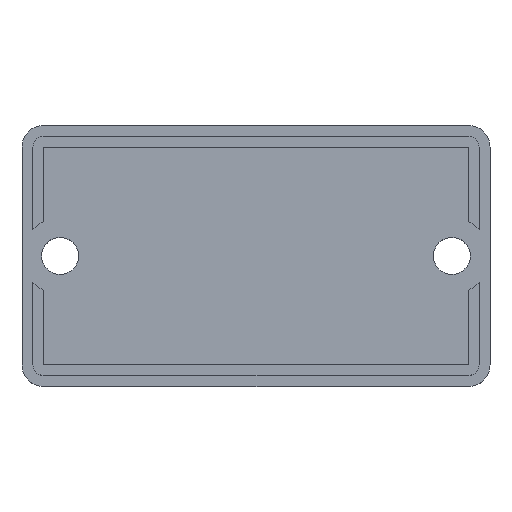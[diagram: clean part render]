
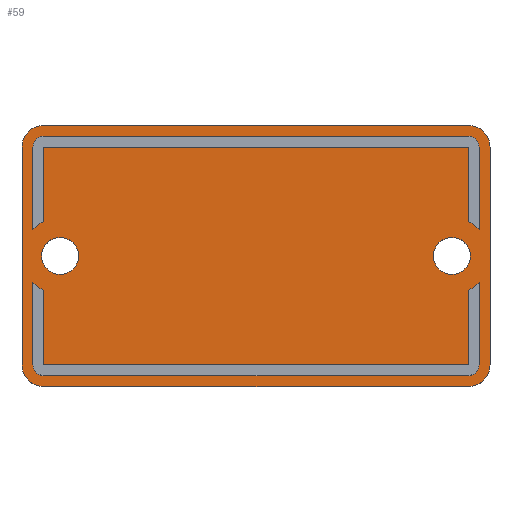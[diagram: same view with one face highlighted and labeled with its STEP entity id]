
A CAD part, top view. The second image highlights one B-rep face of the part: STEP entity #59.
In plain terms, the highlighted planar face has unit normal (0, 0, 1).
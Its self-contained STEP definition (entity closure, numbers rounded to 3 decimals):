
#21 = EDGE_CURVE('',#22,#24,#26,.T.);
#22 = VERTEX_POINT('',#23);
#23 = CARTESIAN_POINT('',(-21.5,-10.,4.));
#24 = VERTEX_POINT('',#25);
#25 = CARTESIAN_POINT('',(-19.5,-12.,4.));
#26 = CIRCLE('',#27,2.);
#27 = AXIS2_PLACEMENT_3D('',#28,#29,#30);
#28 = CARTESIAN_POINT('',(-19.5,-10.,4.));
#29 = DIRECTION('',(0.,0.,1.));
#30 = DIRECTION('',(1.,0.,-0.));
#59 = ADVANCED_FACE('',(#60,#120,#206,#217,#228),#314,.T.);
#60 = FACE_BOUND('',#61,.T.);
#61 = EDGE_LOOP('',(#62,#63,#71,#80,#88,#97,#105,#114));
#62 = ORIENTED_EDGE('',*,*,#21,.T.);
#63 = ORIENTED_EDGE('',*,*,#64,.T.);
#64 = EDGE_CURVE('',#24,#65,#67,.T.);
#65 = VERTEX_POINT('',#66);
#66 = CARTESIAN_POINT('',(19.5,-12.,4.));
#67 = LINE('',#68,#69);
#68 = CARTESIAN_POINT('',(-19.5,-12.,4.));
#69 = VECTOR('',#70,1.);
#70 = DIRECTION('',(1.,0.,-0.));
#71 = ORIENTED_EDGE('',*,*,#72,.T.);
#72 = EDGE_CURVE('',#65,#73,#75,.T.);
#73 = VERTEX_POINT('',#74);
#74 = CARTESIAN_POINT('',(21.5,-10.,4.));
#75 = CIRCLE('',#76,2.);
#76 = AXIS2_PLACEMENT_3D('',#77,#78,#79);
#77 = CARTESIAN_POINT('',(19.5,-10.,4.));
#78 = DIRECTION('',(0.,0.,1.));
#79 = DIRECTION('',(1.,0.,-0.));
#80 = ORIENTED_EDGE('',*,*,#81,.T.);
#81 = EDGE_CURVE('',#73,#82,#84,.T.);
#82 = VERTEX_POINT('',#83);
#83 = CARTESIAN_POINT('',(21.5,10.,4.));
#84 = LINE('',#85,#86);
#85 = CARTESIAN_POINT('',(21.5,-10.,4.));
#86 = VECTOR('',#87,1.);
#87 = DIRECTION('',(-0.,1.,0.));
#88 = ORIENTED_EDGE('',*,*,#89,.T.);
#89 = EDGE_CURVE('',#82,#90,#92,.T.);
#90 = VERTEX_POINT('',#91);
#91 = CARTESIAN_POINT('',(19.5,12.,4.));
#92 = CIRCLE('',#93,2.);
#93 = AXIS2_PLACEMENT_3D('',#94,#95,#96);
#94 = CARTESIAN_POINT('',(19.5,10.,4.));
#95 = DIRECTION('',(0.,0.,1.));
#96 = DIRECTION('',(1.,0.,-0.));
#97 = ORIENTED_EDGE('',*,*,#98,.F.);
#98 = EDGE_CURVE('',#99,#90,#101,.T.);
#99 = VERTEX_POINT('',#100);
#100 = CARTESIAN_POINT('',(-19.5,12.,4.));
#101 = LINE('',#102,#103);
#102 = CARTESIAN_POINT('',(-19.5,12.,4.));
#103 = VECTOR('',#104,1.);
#104 = DIRECTION('',(1.,0.,-0.));
#105 = ORIENTED_EDGE('',*,*,#106,.T.);
#106 = EDGE_CURVE('',#99,#107,#109,.T.);
#107 = VERTEX_POINT('',#108);
#108 = CARTESIAN_POINT('',(-21.5,10.,4.));
#109 = CIRCLE('',#110,2.);
#110 = AXIS2_PLACEMENT_3D('',#111,#112,#113);
#111 = CARTESIAN_POINT('',(-19.5,10.,4.));
#112 = DIRECTION('',(0.,0.,1.));
#113 = DIRECTION('',(1.,0.,-0.));
#114 = ORIENTED_EDGE('',*,*,#115,.F.);
#115 = EDGE_CURVE('',#22,#107,#116,.T.);
#116 = LINE('',#117,#118);
#117 = CARTESIAN_POINT('',(-21.5,-10.,4.));
#118 = VECTOR('',#119,1.);
#119 = DIRECTION('',(-0.,1.,0.));
#120 = FACE_BOUND('',#121,.T.);
#121 = EDGE_LOOP('',(#122,#133,#141,#150,#158,#166,#174,#183,#191,#200)
  );
#122 = ORIENTED_EDGE('',*,*,#123,.F.);
#123 = EDGE_CURVE('',#124,#126,#128,.T.);
#124 = VERTEX_POINT('',#125);
#125 = CARTESIAN_POINT('',(-20.5,-10.,4.));
#126 = VERTEX_POINT('',#127);
#127 = CARTESIAN_POINT('',(-19.5,-11.,4.));
#128 = CIRCLE('',#129,1.);
#129 = AXIS2_PLACEMENT_3D('',#130,#131,#132);
#130 = CARTESIAN_POINT('',(-19.5,-10.,4.));
#131 = DIRECTION('',(0.,0.,1.));
#132 = DIRECTION('',(1.,0.,-0.));
#133 = ORIENTED_EDGE('',*,*,#134,.T.);
#134 = EDGE_CURVE('',#124,#135,#137,.T.);
#135 = VERTEX_POINT('',#136);
#136 = CARTESIAN_POINT('',(-20.5,-2.449,4.));
#137 = LINE('',#138,#139);
#138 = CARTESIAN_POINT('',(-20.5,-5.,4.));
#139 = VECTOR('',#140,1.);
#140 = DIRECTION('',(-0.,1.,0.));
#141 = ORIENTED_EDGE('',*,*,#142,.T.);
#142 = EDGE_CURVE('',#135,#143,#145,.T.);
#143 = VERTEX_POINT('',#144);
#144 = CARTESIAN_POINT('',(-19.5,-3.162,4.));
#145 = CIRCLE('',#146,3.5);
#146 = AXIS2_PLACEMENT_3D('',#147,#148,#149);
#147 = CARTESIAN_POINT('',(-18.,0.,4.));
#148 = DIRECTION('',(0.,0.,1.));
#149 = DIRECTION('',(1.,0.,-0.));
#150 = ORIENTED_EDGE('',*,*,#151,.F.);
#151 = EDGE_CURVE('',#152,#143,#154,.T.);
#152 = VERTEX_POINT('',#153);
#153 = CARTESIAN_POINT('',(-19.5,-10.,4.));
#154 = LINE('',#155,#156);
#155 = CARTESIAN_POINT('',(-19.5,-5.,4.));
#156 = VECTOR('',#157,1.);
#157 = DIRECTION('',(-0.,1.,0.));
#158 = ORIENTED_EDGE('',*,*,#159,.F.);
#159 = EDGE_CURVE('',#160,#152,#162,.T.);
#160 = VERTEX_POINT('',#161);
#161 = CARTESIAN_POINT('',(19.5,-10.,4.));
#162 = LINE('',#163,#164);
#163 = CARTESIAN_POINT('',(-9.75,-10.,4.));
#164 = VECTOR('',#165,1.);
#165 = DIRECTION('',(-1.,-0.,0.));
#166 = ORIENTED_EDGE('',*,*,#167,.T.);
#167 = EDGE_CURVE('',#160,#168,#170,.T.);
#168 = VERTEX_POINT('',#169);
#169 = CARTESIAN_POINT('',(19.5,-3.162,4.));
#170 = LINE('',#171,#172);
#171 = CARTESIAN_POINT('',(19.5,-5.,4.));
#172 = VECTOR('',#173,1.);
#173 = DIRECTION('',(-0.,1.,0.));
#174 = ORIENTED_EDGE('',*,*,#175,.T.);
#175 = EDGE_CURVE('',#168,#176,#178,.T.);
#176 = VERTEX_POINT('',#177);
#177 = CARTESIAN_POINT('',(20.5,-2.449,4.));
#178 = CIRCLE('',#179,3.5);
#179 = AXIS2_PLACEMENT_3D('',#180,#181,#182);
#180 = CARTESIAN_POINT('',(18.,0.,4.));
#181 = DIRECTION('',(0.,0.,1.));
#182 = DIRECTION('',(1.,0.,-0.));
#183 = ORIENTED_EDGE('',*,*,#184,.F.);
#184 = EDGE_CURVE('',#185,#176,#187,.T.);
#185 = VERTEX_POINT('',#186);
#186 = CARTESIAN_POINT('',(20.5,-10.,4.));
#187 = LINE('',#188,#189);
#188 = CARTESIAN_POINT('',(20.5,-5.,4.));
#189 = VECTOR('',#190,1.);
#190 = DIRECTION('',(-0.,1.,0.));
#191 = ORIENTED_EDGE('',*,*,#192,.F.);
#192 = EDGE_CURVE('',#193,#185,#195,.T.);
#193 = VERTEX_POINT('',#194);
#194 = CARTESIAN_POINT('',(19.5,-11.,4.));
#195 = CIRCLE('',#196,1.);
#196 = AXIS2_PLACEMENT_3D('',#197,#198,#199);
#197 = CARTESIAN_POINT('',(19.5,-10.,4.));
#198 = DIRECTION('',(0.,0.,1.));
#199 = DIRECTION('',(1.,0.,-0.));
#200 = ORIENTED_EDGE('',*,*,#201,.T.);
#201 = EDGE_CURVE('',#193,#126,#202,.T.);
#202 = LINE('',#203,#204);
#203 = CARTESIAN_POINT('',(-9.75,-11.,4.));
#204 = VECTOR('',#205,1.);
#205 = DIRECTION('',(-1.,-0.,0.));
#206 = FACE_BOUND('',#207,.T.);
#207 = EDGE_LOOP('',(#208));
#208 = ORIENTED_EDGE('',*,*,#209,.F.);
#209 = EDGE_CURVE('',#210,#210,#212,.T.);
#210 = VERTEX_POINT('',#211);
#211 = CARTESIAN_POINT('',(-16.3,0.,4.));
#212 = CIRCLE('',#213,1.7);
#213 = AXIS2_PLACEMENT_3D('',#214,#215,#216);
#214 = CARTESIAN_POINT('',(-18.,0.,4.));
#215 = DIRECTION('',(0.,0.,1.));
#216 = DIRECTION('',(1.,0.,-0.));
#217 = FACE_BOUND('',#218,.T.);
#218 = EDGE_LOOP('',(#219));
#219 = ORIENTED_EDGE('',*,*,#220,.F.);
#220 = EDGE_CURVE('',#221,#221,#223,.T.);
#221 = VERTEX_POINT('',#222);
#222 = CARTESIAN_POINT('',(19.7,0.,4.));
#223 = CIRCLE('',#224,1.7);
#224 = AXIS2_PLACEMENT_3D('',#225,#226,#227);
#225 = CARTESIAN_POINT('',(18.,0.,4.));
#226 = DIRECTION('',(0.,0.,1.));
#227 = DIRECTION('',(1.,0.,-0.));
#228 = FACE_BOUND('',#229,.T.);
#229 = EDGE_LOOP('',(#230,#240,#249,#257,#265,#273,#282,#290,#299,#307)
  );
#230 = ORIENTED_EDGE('',*,*,#231,.F.);
#231 = EDGE_CURVE('',#232,#234,#236,.T.);
#232 = VERTEX_POINT('',#233);
#233 = CARTESIAN_POINT('',(20.5,2.449,4.));
#234 = VERTEX_POINT('',#235);
#235 = CARTESIAN_POINT('',(20.5,10.,4.));
#236 = LINE('',#237,#238);
#237 = CARTESIAN_POINT('',(20.5,-5.,4.));
#238 = VECTOR('',#239,1.);
#239 = DIRECTION('',(-0.,1.,0.));
#240 = ORIENTED_EDGE('',*,*,#241,.T.);
#241 = EDGE_CURVE('',#232,#242,#244,.T.);
#242 = VERTEX_POINT('',#243);
#243 = CARTESIAN_POINT('',(19.5,3.162,4.));
#244 = CIRCLE('',#245,3.5);
#245 = AXIS2_PLACEMENT_3D('',#246,#247,#248);
#246 = CARTESIAN_POINT('',(18.,0.,4.));
#247 = DIRECTION('',(0.,0.,1.));
#248 = DIRECTION('',(1.,0.,-0.));
#249 = ORIENTED_EDGE('',*,*,#250,.T.);
#250 = EDGE_CURVE('',#242,#251,#253,.T.);
#251 = VERTEX_POINT('',#252);
#252 = CARTESIAN_POINT('',(19.5,10.,4.));
#253 = LINE('',#254,#255);
#254 = CARTESIAN_POINT('',(19.5,-5.,4.));
#255 = VECTOR('',#256,1.);
#256 = DIRECTION('',(-0.,1.,0.));
#257 = ORIENTED_EDGE('',*,*,#258,.T.);
#258 = EDGE_CURVE('',#251,#259,#261,.T.);
#259 = VERTEX_POINT('',#260);
#260 = CARTESIAN_POINT('',(-19.5,10.,4.));
#261 = LINE('',#262,#263);
#262 = CARTESIAN_POINT('',(-9.75,10.,4.));
#263 = VECTOR('',#264,1.);
#264 = DIRECTION('',(-1.,-0.,0.));
#265 = ORIENTED_EDGE('',*,*,#266,.F.);
#266 = EDGE_CURVE('',#267,#259,#269,.T.);
#267 = VERTEX_POINT('',#268);
#268 = CARTESIAN_POINT('',(-19.5,3.162,4.));
#269 = LINE('',#270,#271);
#270 = CARTESIAN_POINT('',(-19.5,-5.,4.));
#271 = VECTOR('',#272,1.);
#272 = DIRECTION('',(-0.,1.,0.));
#273 = ORIENTED_EDGE('',*,*,#274,.T.);
#274 = EDGE_CURVE('',#267,#275,#277,.T.);
#275 = VERTEX_POINT('',#276);
#276 = CARTESIAN_POINT('',(-20.5,2.449,4.));
#277 = CIRCLE('',#278,3.5);
#278 = AXIS2_PLACEMENT_3D('',#279,#280,#281);
#279 = CARTESIAN_POINT('',(-18.,0.,4.));
#280 = DIRECTION('',(0.,0.,1.));
#281 = DIRECTION('',(1.,0.,-0.));
#282 = ORIENTED_EDGE('',*,*,#283,.T.);
#283 = EDGE_CURVE('',#275,#284,#286,.T.);
#284 = VERTEX_POINT('',#285);
#285 = CARTESIAN_POINT('',(-20.5,10.,4.));
#286 = LINE('',#287,#288);
#287 = CARTESIAN_POINT('',(-20.5,-5.,4.));
#288 = VECTOR('',#289,1.);
#289 = DIRECTION('',(-0.,1.,0.));
#290 = ORIENTED_EDGE('',*,*,#291,.F.);
#291 = EDGE_CURVE('',#292,#284,#294,.T.);
#292 = VERTEX_POINT('',#293);
#293 = CARTESIAN_POINT('',(-19.5,11.,4.));
#294 = CIRCLE('',#295,1.);
#295 = AXIS2_PLACEMENT_3D('',#296,#297,#298);
#296 = CARTESIAN_POINT('',(-19.5,10.,4.));
#297 = DIRECTION('',(0.,0.,1.));
#298 = DIRECTION('',(1.,0.,-0.));
#299 = ORIENTED_EDGE('',*,*,#300,.F.);
#300 = EDGE_CURVE('',#301,#292,#303,.T.);
#301 = VERTEX_POINT('',#302);
#302 = CARTESIAN_POINT('',(19.5,11.,4.));
#303 = LINE('',#304,#305);
#304 = CARTESIAN_POINT('',(-9.75,11.,4.));
#305 = VECTOR('',#306,1.);
#306 = DIRECTION('',(-1.,-0.,0.));
#307 = ORIENTED_EDGE('',*,*,#308,.F.);
#308 = EDGE_CURVE('',#234,#301,#309,.T.);
#309 = CIRCLE('',#310,1.);
#310 = AXIS2_PLACEMENT_3D('',#311,#312,#313);
#311 = CARTESIAN_POINT('',(19.5,10.,4.));
#312 = DIRECTION('',(0.,0.,1.));
#313 = DIRECTION('',(1.,0.,-0.));
#314 = PLANE('',#315);
#315 = AXIS2_PLACEMENT_3D('',#316,#317,#318);
#316 = CARTESIAN_POINT('',(0.,0.,4.));
#317 = DIRECTION('',(0.,0.,1.));
#318 = DIRECTION('',(1.,0.,-0.));
